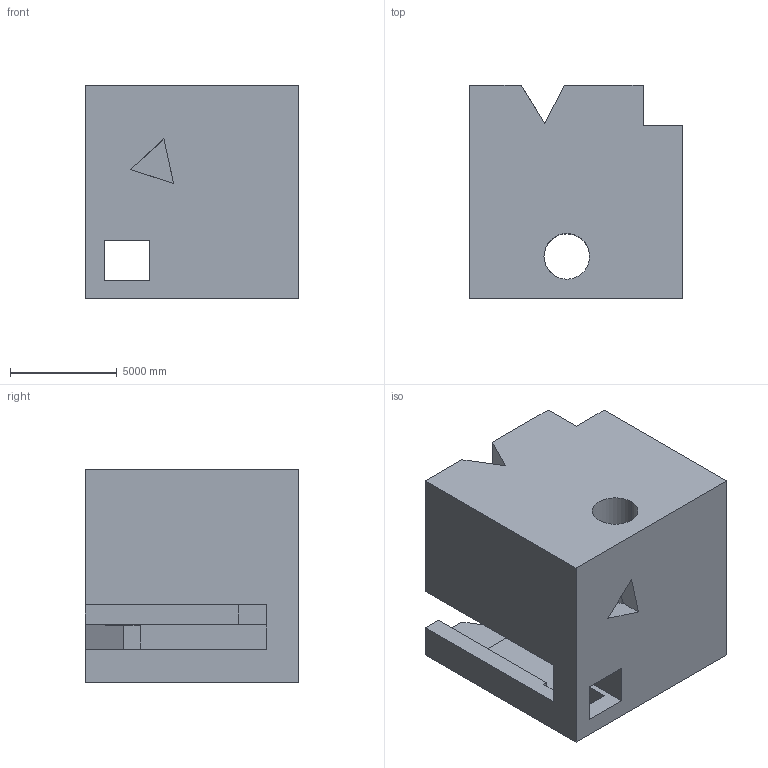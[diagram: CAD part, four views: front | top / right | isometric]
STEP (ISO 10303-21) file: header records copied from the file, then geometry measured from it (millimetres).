
FILE_DESCRIPTION (( 'STEP AP203' ), '1' );
FILE_NAME ('874.STEP', '2022-07-29T13:54:12', ( 'user' ), ( '' ), 'SwSTEP 2.0', 'SolidWorks 2021', '' );
FILE_SCHEMA (( 'CONFIG_CONTROL_DESIGN' ));
Length unit declared in the file: centimetre
Products named in the file (1): 874
Bounding box: 10000 x 10000 x 10000 mm (x, y, z)
Volume: 813996553407.8 mm3; surface area: 799008071.8 mm2
Topology: 1 solids, 1 shells, 47 faces, 142 edges, 94 vertices
Faces by surface type: plane 41, cylinder 6
Entity records: 1669 total; most frequent: CARTESIAN_POINT 302, ORIENTED_EDGE 284, DIRECTION 244, EDGE_CURVE 142, VECTOR 124, LINE 124, VERTEX_POINT 94, AXIS2_PLACEMENT_3D 60
